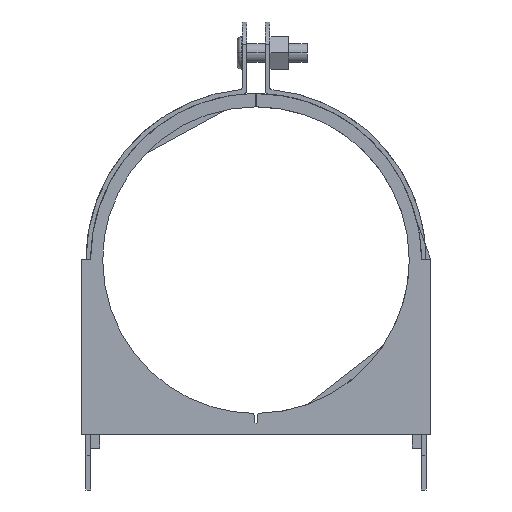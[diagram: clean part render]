
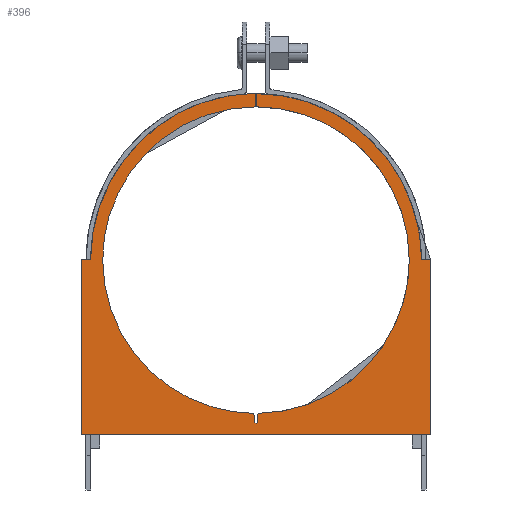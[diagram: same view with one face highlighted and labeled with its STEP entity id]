
A CAD part, front view. The second image highlights one B-rep face of the part: STEP entity #396.
In plain terms, the highlighted planar face has unit normal (0, -1, 0).
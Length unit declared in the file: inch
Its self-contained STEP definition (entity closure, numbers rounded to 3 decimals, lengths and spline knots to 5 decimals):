
#396=ADVANCED_FACE('',(#1069),#1070,.T.);
#1069=FACE_OUTER_BOUND('',#2014,.T.);
#1070=PLANE('',#2015);
#2014=EDGE_LOOP('',(#3790,#3791,#3792,#3793,#3794,#3795,#3796,#3797,#3798,#3799,#3800,#3801,#3802,#3803,#3804,#3805,#3806));
#2015=AXIS2_PLACEMENT_3D('',#3807,#3808,#3809);
#3790=ORIENTED_EDGE('',*,*,#5065,.F.);
#3791=ORIENTED_EDGE('',*,*,#5066,.F.);
#3792=ORIENTED_EDGE('',*,*,#5067,.F.);
#3793=ORIENTED_EDGE('',*,*,#5060,.F.);
#3794=ORIENTED_EDGE('',*,*,#5068,.F.);
#3795=ORIENTED_EDGE('',*,*,#5069,.F.);
#3796=ORIENTED_EDGE('',*,*,#5070,.F.);
#3797=ORIENTED_EDGE('',*,*,#5071,.F.);
#3798=ORIENTED_EDGE('',*,*,#5045,.F.);
#3799=ORIENTED_EDGE('',*,*,#5072,.F.);
#3800=ORIENTED_EDGE('',*,*,#5073,.F.);
#3801=ORIENTED_EDGE('',*,*,#5074,.F.);
#3802=ORIENTED_EDGE('',*,*,#5075,.F.);
#3803=ORIENTED_EDGE('',*,*,#5076,.F.);
#3804=ORIENTED_EDGE('',*,*,#5077,.F.);
#3805=ORIENTED_EDGE('',*,*,#5078,.F.);
#3806=ORIENTED_EDGE('',*,*,#5079,.F.);
#3807=CARTESIAN_POINT('',(2.28497,-0.125,2.8751));
#3808=DIRECTION('',(0.0,-1.0,0.0));
#3809=DIRECTION('',(1.0,0.0,0.0));
#5045=EDGE_CURVE('',#5412,#5413,#5414,.T.);
#5060=EDGE_CURVE('',#5439,#5440,#5441,.T.);
#5065=EDGE_CURVE('',#5448,#5449,#5450,.T.);
#5066=EDGE_CURVE('',#5451,#5448,#5452,.T.);
#5067=EDGE_CURVE('',#5440,#5451,#5453,.T.);
#5068=EDGE_CURVE('',#5454,#5439,#5455,.T.);
#5069=EDGE_CURVE('',#5456,#5454,#5457,.T.);
#5070=EDGE_CURVE('',#5458,#5456,#5459,.T.);
#5071=EDGE_CURVE('',#5413,#5458,#5460,.T.);
#5072=EDGE_CURVE('',#5461,#5412,#5462,.T.);
#5073=EDGE_CURVE('',#5463,#5461,#5464,.T.);
#5074=EDGE_CURVE('',#5465,#5463,#5466,.T.);
#5075=EDGE_CURVE('',#5467,#5465,#5468,.T.);
#5076=EDGE_CURVE('',#5469,#5467,#5470,.T.);
#5077=EDGE_CURVE('',#5471,#5469,#5472,.T.);
#5078=EDGE_CURVE('',#5473,#5471,#5474,.T.);
#5079=EDGE_CURVE('',#5449,#5473,#5475,.T.);
#5412=VERTEX_POINT('',#5917);
#5413=VERTEX_POINT('',#5918);
#5414=LINE('',#5919,#5920);
#5439=VERTEX_POINT('',#5969);
#5440=VERTEX_POINT('',#5970);
#5441=B_SPLINE_CURVE_WITH_KNOTS('',3,(#5971,#5972,#5973,#5974),.UNSPECIFIED.,.F.,.F.,(4,4),(0.0,1.0),.UNSPECIFIED.);
#5448=VERTEX_POINT('',#5986);
#5449=VERTEX_POINT('',#5987);
#5450=LINE('',#5988,#5989);
#5451=VERTEX_POINT('',#5990);
#5452=B_SPLINE_CURVE_WITH_KNOTS('',3,(#5991,#5992,#5993,#5994),.UNSPECIFIED.,.F.,.F.,(4,4),(0.0,1.0),.UNSPECIFIED.);
#5453=LINE('',#5995,#5996);
#5454=VERTEX_POINT('',#5997);
#5455=B_SPLINE_CURVE_WITH_KNOTS('',3,(#5998,#5999,#6000,#6001),.UNSPECIFIED.,.F.,.F.,(4,4),(0.0,1.0),.UNSPECIFIED.);
#5456=VERTEX_POINT('',#6002);
#5457=LINE('',#6003,#6004);
#5458=VERTEX_POINT('',#6005);
#5459=LINE('',#6006,#6007);
#5460=LINE('',#6008,#6009);
#5461=VERTEX_POINT('',#6010);
#5462=B_SPLINE_CURVE_WITH_KNOTS('',3,(#6011,#6012,#6013,#6014),.UNSPECIFIED.,.F.,.F.,(4,4),(0.0,1.0),.UNSPECIFIED.);
#5463=VERTEX_POINT('',#6015);
#5464=B_SPLINE_CURVE_WITH_KNOTS('',3,(#6016,#6017,#6018,#6019),.UNSPECIFIED.,.F.,.F.,(4,4),(0.0,1.0),.UNSPECIFIED.);
#5465=VERTEX_POINT('',#6020);
#5466=LINE('',#6021,#6022);
#5467=VERTEX_POINT('',#6023);
#5468=B_SPLINE_CURVE_WITH_KNOTS('',3,(#6024,#6025,#6026,#6027),.UNSPECIFIED.,.F.,.F.,(4,4),(0.0,1.0),.UNSPECIFIED.);
#5469=VERTEX_POINT('',#6028);
#5470=LINE('',#6029,#6030);
#5471=VERTEX_POINT('',#6031);
#5472=LINE('',#6032,#6033);
#5473=VERTEX_POINT('',#6034);
#5474=LINE('',#6035,#6036);
#5475=LINE('',#6037,#6038);
#5917=CARTESIAN_POINT('',(2.25613,-0.125,1.03011));
#5918=CARTESIAN_POINT('',(2.27003,-0.125,0.90302));
#5919=CARTESIAN_POINT('',(2.25613,-0.125,1.03011));
#5920=VECTOR('',#6796,1.0);
#5969=CARTESIAN_POINT('',(4.34499,-0.125,3.08984));
#5970=CARTESIAN_POINT('',(2.29098,-0.125,5.14962));
#5971=CARTESIAN_POINT('',(4.34499,-0.125,3.08984));
#5972=CARTESIAN_POINT('',(4.34499,-0.125,4.22557));
#5973=CARTESIAN_POINT('',(3.42594,-0.125,5.14641));
#5974=CARTESIAN_POINT('',(2.29098,-0.125,5.14962));
#5986=CARTESIAN_POINT('',(4.50725,-0.125,3.10352));
#5987=CARTESIAN_POINT('',(4.63225,-0.125,3.10352));
#5988=CARTESIAN_POINT('',(4.50725,-0.125,3.10352));
#5989=VECTOR('',#6808,1.0);
#5990=CARTESIAN_POINT('',(2.2908,-0.125,5.32742));
#5991=CARTESIAN_POINT('',(2.2908,-0.125,5.32742));
#5992=CARTESIAN_POINT('',(3.51133,-0.125,5.32427));
#5993=CARTESIAN_POINT('',(4.5007,-0.125,4.32334));
#5994=CARTESIAN_POINT('',(4.50725,-0.125,3.10352));
#5995=CARTESIAN_POINT('',(2.29098,-0.125,5.14962));
#5996=VECTOR('',#6809,1.0);
#5997=CARTESIAN_POINT('',(2.31302,-0.125,1.0301));
#5998=CARTESIAN_POINT('',(2.31302,-0.125,1.0301));
#5999=CARTESIAN_POINT('',(3.43781,-0.125,1.04508));
#6000=CARTESIAN_POINT('',(4.34499,-0.125,1.96148));
#6001=CARTESIAN_POINT('',(4.34499,-0.125,3.08984));
#6002=CARTESIAN_POINT('',(2.30135,-0.125,0.90302));
#6003=CARTESIAN_POINT('',(2.30135,-0.125,0.90302));
#6004=VECTOR('',#6810,1.);
#6005=CARTESIAN_POINT('',(2.28493,-0.125,0.89856));
#6006=CARTESIAN_POINT('',(2.28493,-0.125,0.89856));
#6007=VECTOR('',#6811,1.0);
#6008=CARTESIAN_POINT('',(2.27003,-0.125,0.90302));
#6009=VECTOR('',#6812,1.0);
#6010=CARTESIAN_POINT('',(0.225,-0.125,3.08984));
#6011=CARTESIAN_POINT('',(0.225,-0.125,3.08984));
#6012=CARTESIAN_POINT('',(0.225,-0.125,1.96177));
#6013=CARTESIAN_POINT('',(1.13173,-0.125,1.04555));
#6014=CARTESIAN_POINT('',(2.25613,-0.125,1.03011));
#6015=CARTESIAN_POINT('',(2.27952,-0.125,5.14962));
#6016=CARTESIAN_POINT('',(2.27952,-0.125,5.14962));
#6017=CARTESIAN_POINT('',(1.14434,-0.125,5.14665));
#6018=CARTESIAN_POINT('',(0.225,-0.125,4.22572));
#6019=CARTESIAN_POINT('',(0.225,-0.125,3.08984));
#6020=CARTESIAN_POINT('',(2.27949,-0.125,5.32742));
#6021=CARTESIAN_POINT('',(2.27949,-0.125,5.32742));
#6022=VECTOR('',#6813,1.0);
#6023=CARTESIAN_POINT('',(0.06256,-0.125,3.10362));
#6024=CARTESIAN_POINT('',(0.06256,-0.125,3.10362));
#6025=CARTESIAN_POINT('',(0.06924,-0.125,4.32347));
#6026=CARTESIAN_POINT('',(1.05886,-0.125,5.32448));
#6027=CARTESIAN_POINT('',(2.27949,-0.125,5.32742));
#6028=CARTESIAN_POINT('',(-0.06241,-0.125,3.10352));
#6029=CARTESIAN_POINT('',(-0.06241,-0.125,3.10352));
#6030=VECTOR('',#6814,1.);
#6031=CARTESIAN_POINT('',(-0.06241,-0.125,0.75));
#6032=CARTESIAN_POINT('',(-0.06241,-0.125,0.75));
#6033=VECTOR('',#6815,1.0);
#6034=CARTESIAN_POINT('',(4.63225,-0.125,0.75));
#6035=CARTESIAN_POINT('',(4.63225,-0.125,0.75));
#6036=VECTOR('',#6816,1.0);
#6037=CARTESIAN_POINT('',(4.63225,-0.125,3.10352));
#6038=VECTOR('',#6817,1.0);
#6796=DIRECTION('',(0.109,0.0,-0.994));
#6808=DIRECTION('',(1.,0.0,0.));
#6809=DIRECTION('',(-0.001,0.0,1.));
#6810=DIRECTION('',(0.091,0.0,0.996));
#6811=DIRECTION('',(0.965,0.0,0.262));
#6812=DIRECTION('',(0.958,0.0,-0.287));
#6813=DIRECTION('',(0.,0.0,-1.));
#6814=DIRECTION('',(1.,0.0,0.001));
#6815=DIRECTION('',(0.0,0.0,1.0));
#6816=DIRECTION('',(-1.0,0.0,0.0));
#6817=DIRECTION('',(0.0,0.0,-1.0));
